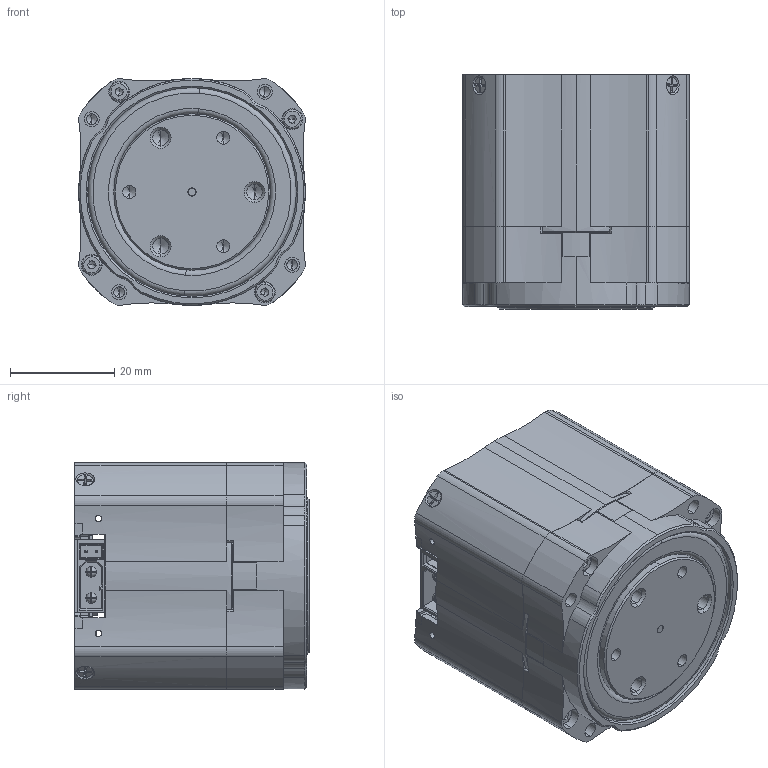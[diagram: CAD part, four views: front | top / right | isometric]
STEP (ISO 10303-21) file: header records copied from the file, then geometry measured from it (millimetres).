
FILE_DESCRIPTION (( 'STEP AP214' ), '1' );
FILE_NAME ('HTDW-4530-02-CNE.STEP', '2025-12-24T08:19:49', ( '' ), ( '' ), 'SwSTEP 2.0', 'SolidWorks 2024', '' );
FILE_SCHEMA (( 'AUTOMOTIVE_DESIGN' ));
Length unit declared in the file: millimetre
Products named in the file (12): HTDW-4530-02-CNE; 4438-电机盖-2.1; 2内齿44382.0; m2-4-3十字沉头螺丝; M2.5-10-3.7杯头螺丝; CRBT305A 30-41-5交叉滚子轴承; 4438-jc轴承座-1.3; 30-40-3旋转油封; 4438输出编码器销2.0_35.5; 4438外壳03192.0; 4438-jc输出盘; 3D_双编-4438-V1.9_2025-03-042.0
Assembly tree (17 placements, depth 2):
  HTDW-4530-02-CNE
    4438外壳03192.0
    4438-电机盖-2.1
    4438-jc轴承座-1.3
    4438-jc输出盘
    CRBT305A 30-41-5交叉滚子轴承
    2内齿44382.0
    3D_双编-4438-V1.9_2025-03-042.0
    4438输出编码器销2.0_35.5
    M2.5-10-3.7杯头螺丝  x4
    m2-4-3十字沉头螺丝  x4
    30-40-3旋转油封
Bounding box: 43.5 x 44.9 x 43.5 mm (x, y, z)
Volume: 36820.3 mm3; surface area: 41378.6 mm2
Topology: 19 solids, 19 shells, 2720 faces, 7431 edges, 4811 vertices
Faces by surface type: cylinder 1260, plane 818, bspline 432, cone 166, torus 28, sphere 16
Entity records: 90326 total; most frequent: CARTESIAN_POINT 23709, ORIENTED_EDGE 14166, DIRECTION 13171, EDGE_CURVE 7083, AXIS2_PLACEMENT_3D 4863, VERTEX_POINT 4649, VECTOR 3445, LINE 3445
